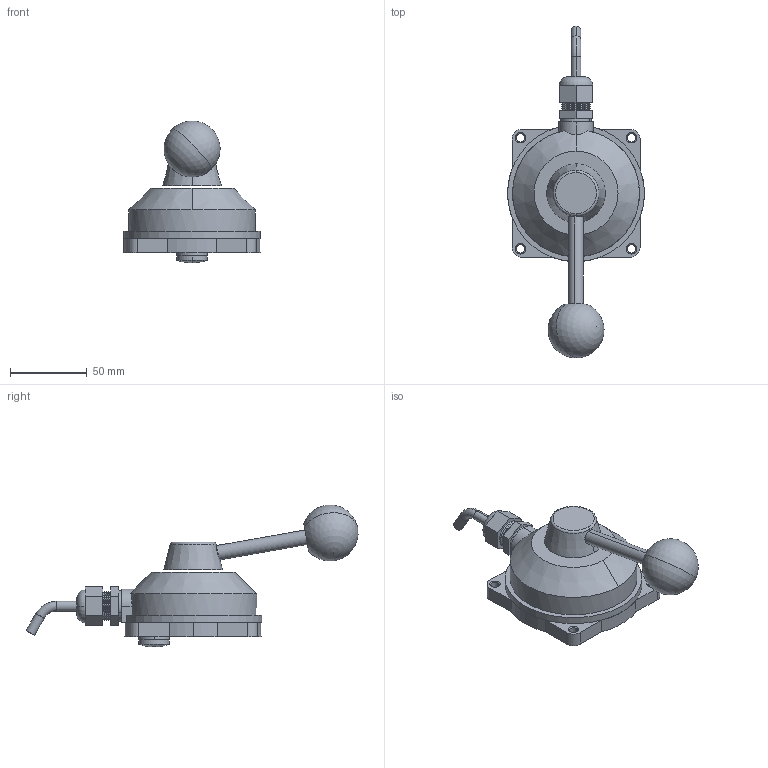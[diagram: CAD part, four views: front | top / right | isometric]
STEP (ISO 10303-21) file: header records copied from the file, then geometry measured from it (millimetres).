
FILE_DESCRIPTION (( 'STEP AP214' ), '1' );
FILE_NAME ('7170-A1.STEP', '2019-02-04T21:47:09', ( '' ), ( '' ), 'SwSTEP 2.0', 'SolidWorks 2017', '' );
FILE_SCHEMA (( 'AUTOMOTIVE_DESIGN' ));
Length unit declared in the file: inch
Products named in the file (1): 7170-A1
Bounding box: 88.86 x 215.7 x 92.12 mm (x, y, z)
Surface area: 43273.8 mm2 (no closed solid volume)
Topology: 0 solids, 14 shells, 296 faces, 797 edges, 512 vertices
Faces by surface type: plane 106, cylinder 87, cone 50, torus 19, bspline 18, sphere 16
Entity records: 14505 total; most frequent: CARTESIAN_POINT 3501, DIRECTION 1513, ORIENTED_EDGE 1393, EDGE_CURVE 792, AXIS2_PLACEMENT_3D 566, VERTEX_POINT 509, VECTOR 381, LINE 381
